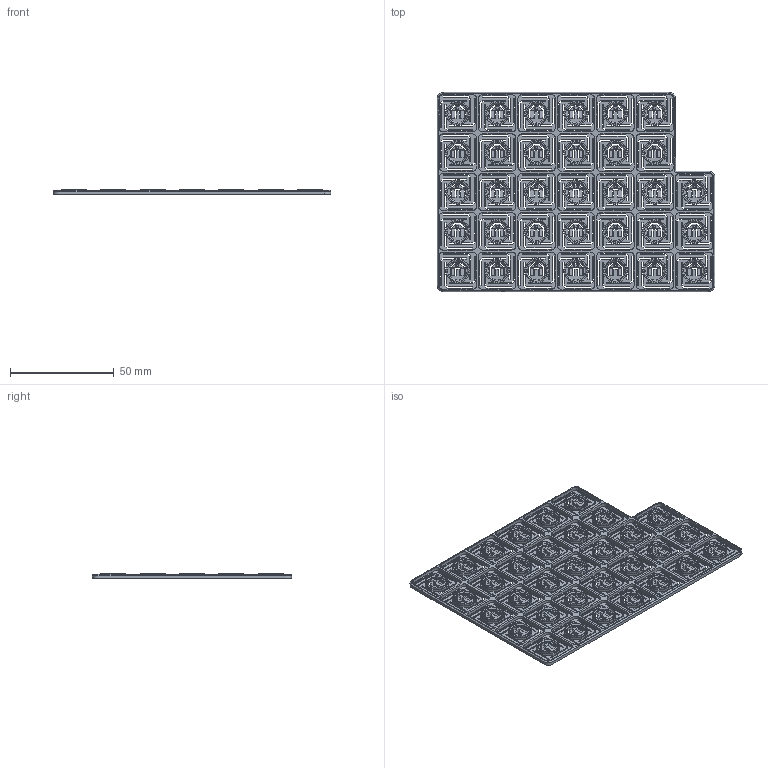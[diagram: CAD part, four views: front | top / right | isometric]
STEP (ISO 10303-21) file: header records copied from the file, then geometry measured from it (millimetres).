
FILE_DESCRIPTION(/* description */ (''),/* implementation_level */ '2;1');
FILE_NAME(/* name */ 'spring',/* time_stamp */ '2020-05-12T21:25:34+02:00',/* author */ (''),/* organization */ (''),/* preprocessor_version */ 'ST-DEVELOPER v10',/* originating_system */ '',/* authorisation */ '');
FILE_SCHEMA (('CONFIG_CONTROL_DESIGN'));
Products named in the file (1): 1
Bounding box: 134 x 96 x 2.4 mm (x, y, z)
Volume: 10768.1 mm3; surface area: 32388.7 mm2
Topology: 1 solids, 1 shells, 4491 faces, 11368 edges, 6852 vertices
Faces by surface type: plane 3827, bspline 664
Entity records: 122161 total; most frequent: CARTESIAN_POINT 44985, ORIENTED_EDGE 22736, EDGE_CURVE 11368, B_SPLINE_CURVE_WITH_KNOTS 10370, VERTEX_POINT 6852, EDGE_LOOP 4860, ADVANCED_FACE 4491, FACE_OUTER_BOUND 4491
